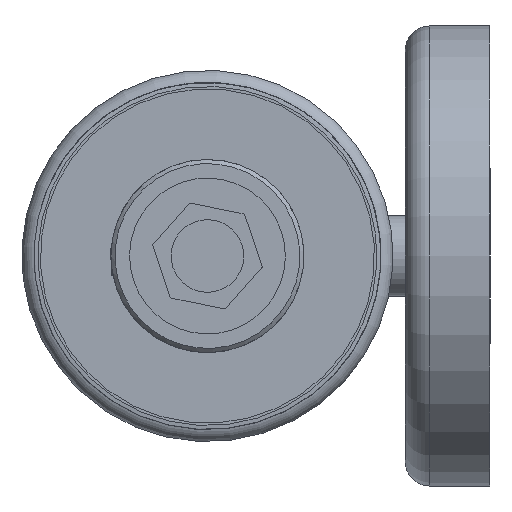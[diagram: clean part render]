
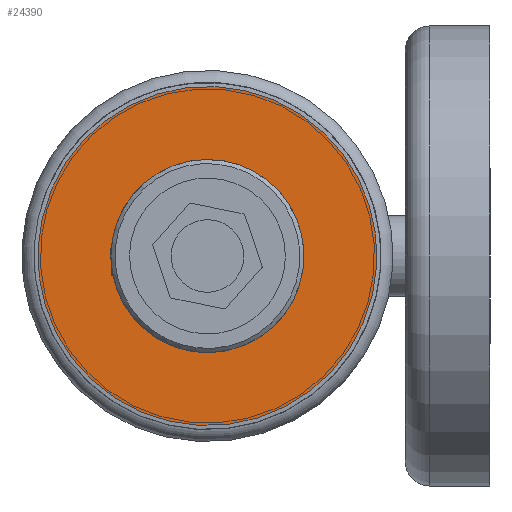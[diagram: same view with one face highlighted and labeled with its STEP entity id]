
A CAD part, left-side view. The second image highlights one B-rep face of the part: STEP entity #24390.
In plain terms, the highlighted planar face has unit normal (-1, 0, 0).
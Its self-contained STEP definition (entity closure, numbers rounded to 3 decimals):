
#1281 = EDGE_CURVE ( 'NONE', #64101, #64101, #21917, .T. ) ;
#1665 = DIRECTION ( 'NONE',  ( 1., 0., 0. ) ) ;
#5450 = FACE_OUTER_BOUND ( 'NONE', #28137, .T. ) ;
#11440 = DIRECTION ( 'NONE',  ( 0., 0.975, 0.223 ) ) ;
#14411 = EDGE_LOOP ( 'NONE', ( #20806 ) ) ;
#18871 = ORIENTED_EDGE ( 'NONE', *, *, #1281, .F. ) ;
#20806 = ORIENTED_EDGE ( 'NONE', *, *, #59214, .T. ) ;
#21917 = CIRCLE ( 'NONE', #87759, 21. ) ;
#23015 = DIRECTION ( 'NONE',  ( 1., 0., 0. ) ) ;
#24390 = ADVANCED_FACE ( 'NONE', ( #26479, #5450 ), #63814, .F. ) ;
#26479 = FACE_BOUND ( 'NONE', #14411, .T. ) ;
#28137 = EDGE_LOOP ( 'NONE', ( #18871 ) ) ;
#29148 = CIRCLE ( 'NONE', #74659, 11.95 ) ;
#29203 = DIRECTION ( 'NONE',  ( 0., 1., 0. ) ) ;
#30072 = VERTEX_POINT ( 'NONE', #67894 ) ;
#34526 = AXIS2_PLACEMENT_3D ( 'NONE', #60325, #23015, #95662 ) ;
#55723 = CARTESIAN_POINT ( 'NONE',  ( -152.7, 55.47, 4.69 ) ) ;
#57169 = DIRECTION ( 'NONE',  ( 1., 0., 0. ) ) ;
#59214 = EDGE_CURVE ( 'NONE', #30072, #30072, #29148, .T. ) ;
#60325 = CARTESIAN_POINT ( 'NONE',  ( -152.7, 30.31, 20.47 ) ) ;
#63814 = PLANE ( 'NONE',  #34526 ) ;
#64101 = VERTEX_POINT ( 'NONE', #55723 ) ;
#67894 = CARTESIAN_POINT ( 'NONE',  ( -152.7, 46.95, 0. ) ) ;
#72972 = CARTESIAN_POINT ( 'NONE',  ( -152.7, 35., 0. ) ) ;
#74659 = AXIS2_PLACEMENT_3D ( 'NONE', #72972, #57169, #29203 ) ;
#87759 = AXIS2_PLACEMENT_3D ( 'NONE', #91890, #1665, #11440 ) ;
#91890 = CARTESIAN_POINT ( 'NONE',  ( -152.7, 35., 0. ) ) ;
#95662 = DIRECTION ( 'NONE',  ( 0., 0.975, 0.223 ) ) ;
